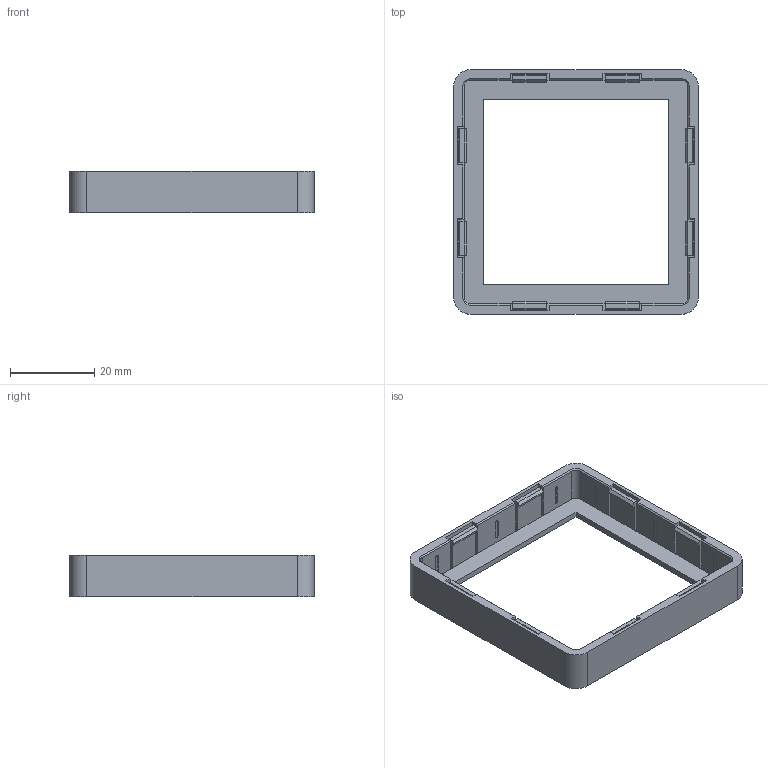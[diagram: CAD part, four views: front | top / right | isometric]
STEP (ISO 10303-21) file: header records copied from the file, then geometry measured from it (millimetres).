
FILE_DESCRIPTION(('FreeCAD Model'),'2;1');
FILE_NAME('Open CASCADE Shape Model','2026-10-03T19:08:40',('Author'),( ''),'Open CASCADE STEP processor 7.8','FreeCAD','Unknown');
FILE_SCHEMA(('AUTOMOTIVE_DESIGN { 1 0 10303 214 1 1 1 1 }'));
Length unit declared in the file: millimetre
Products named in the file (1): DiceBox_StrongLockV2_Lid
Bounding box: 58 x 58 x 9.8 mm (x, y, z)
Volume: 5988.8 mm3; surface area: 8472.1 mm2
Topology: 1 solids, 1 shells, 263 faces, 712 edges, 464 vertices
Faces by surface type: bspline 263
Entity records: 8332 total; most frequent: CARTESIAN_POINT 3977, ORIENTED_EDGE 1424, EDGE_CURVE 712, B_SPLINE_CURVE_WITH_KNOTS 676, VERTEX_POINT 464, FACE_BOUND 278, EDGE_LOOP 278, ADVANCED_FACE 263
